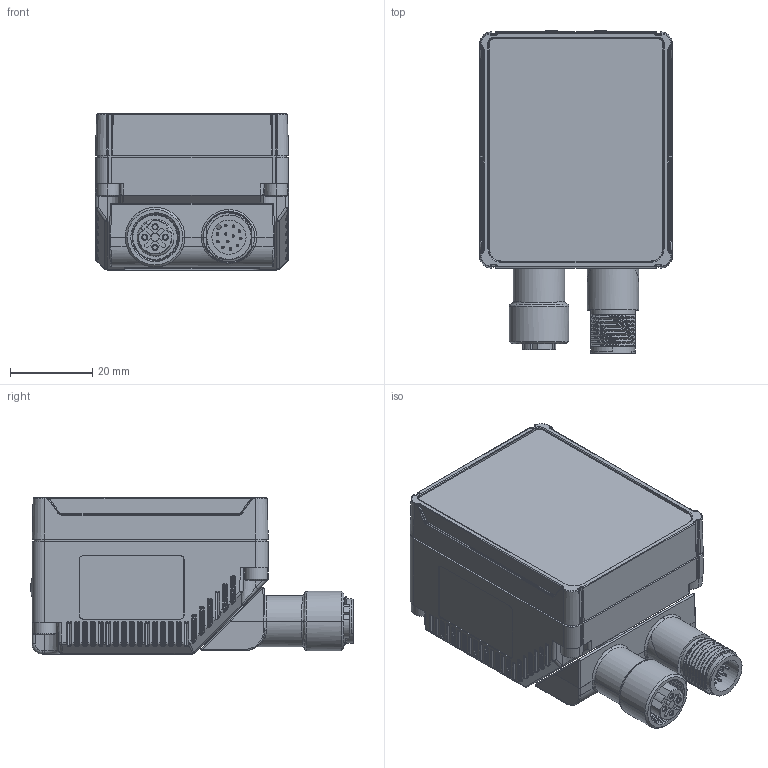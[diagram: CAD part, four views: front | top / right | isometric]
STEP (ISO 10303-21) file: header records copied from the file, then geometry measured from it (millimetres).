
FILE_DESCRIPTION((''),'2;1');
FILE_NAME('57_8X47X38-4000-3D-V2_0','2026-03-12T15:44:29',('401796'),(''),'CREO PARAMETRIC BY PTC INC, 2020184','CREO PARAMETRIC BY PTC INC, 2020184','');
FILE_SCHEMA(('CONFIG_CONTROL_DESIGN','SHAPE_APPEARANCE_LAYERS_GROUPS'));
Products named in the file (1): 57_8X47X38-4000-3D-V2_0
Bounding box: 47 x 78.53 x 38 mm (x, y, z)
Volume: 99546.7 mm3; surface area: 20620.9 mm2
Topology: 1 solids, 14 shells, 1984 faces, 4842 edges, 2900 vertices
Faces by surface type: cylinder 812, bspline 455, plane 445, torus 147, cone 93, sphere 32
Entity records: 108156 total; most frequent: CARTESIAN_POINT 50362, ORIENTED_EDGE 9608, DIRECTION 8319, PRESENTATION_STYLE_ASSIGNMENT 4805, STYLED_ITEM 4805, CURVE_STYLE 4804, EDGE_CURVE 4804, AXIS2_PLACEMENT_3D 3270
